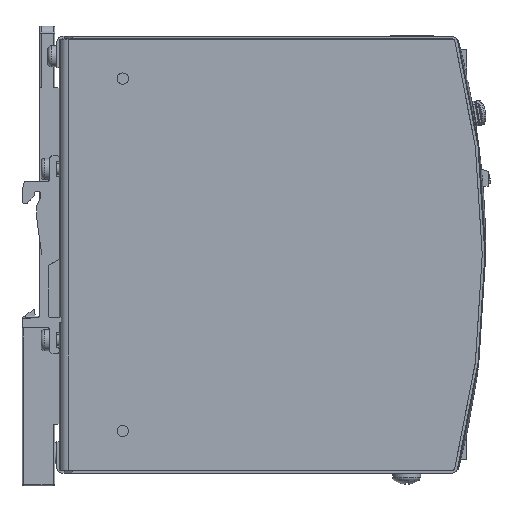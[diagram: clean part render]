
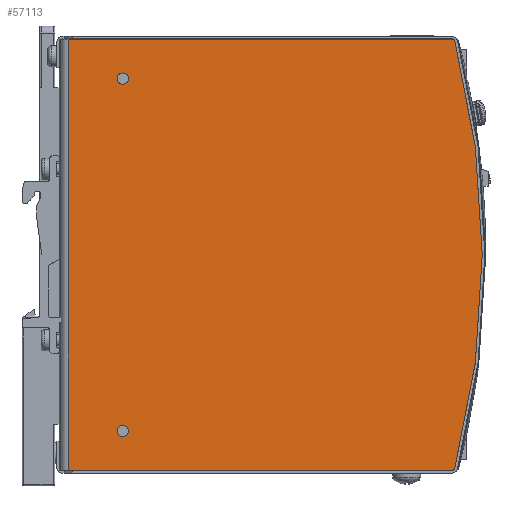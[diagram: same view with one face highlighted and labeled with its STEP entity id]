
A CAD part, front view. The second image highlights one B-rep face of the part: STEP entity #57113.
In plain terms, the highlighted planar face has unit normal (0, -1, 0).
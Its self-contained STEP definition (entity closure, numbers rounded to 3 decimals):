
#2478=FACE_BOUND('',#8600,.T.);
#2479=FACE_BOUND('',#8601,.T.);
#3162=PLANE('',#60580);
#5496=FACE_OUTER_BOUND('',#8599,.T.);
#8599=EDGE_LOOP('',(#39660,#39661,#39662,#39663,#39664,#39665));
#8600=EDGE_LOOP('',(#39666));
#8601=EDGE_LOOP('',(#39667));
#12389=LINE('',#77460,#18318);
#12390=LINE('',#77462,#18319);
#12391=LINE('',#77463,#18320);
#18318=VECTOR('',#64260,10.);
#18319=VECTOR('',#64261,10.);
#18320=VECTOR('',#64262,10.);
#24235=CIRCLE('',#60566,0.5);
#24238=CIRCLE('',#60570,240.);
#24242=CIRCLE('',#60576,0.5);
#24244=CIRCLE('',#60581,1.6);
#24245=CIRCLE('',#60582,1.6);
#25311=VERTEX_POINT('',#77418);
#25312=VERTEX_POINT('',#77419);
#25316=VERTEX_POINT('',#77429);
#25322=VERTEX_POINT('',#77445);
#25326=VERTEX_POINT('',#77459);
#25327=VERTEX_POINT('',#77461);
#25328=VERTEX_POINT('',#77464);
#25329=VERTEX_POINT('',#77466);
#31033=EDGE_CURVE('',#25311,#25312,#24235,.T.);
#31039=EDGE_CURVE('',#25311,#25316,#24238,.T.);
#31046=EDGE_CURVE('',#25322,#25316,#24242,.T.);
#31053=EDGE_CURVE('',#25322,#25326,#12389,.T.);
#31054=EDGE_CURVE('',#25326,#25327,#12390,.T.);
#31055=EDGE_CURVE('',#25312,#25327,#12391,.T.);
#31056=EDGE_CURVE('',#25328,#25328,#24244,.T.);
#31057=EDGE_CURVE('',#25329,#25329,#24245,.T.);
#39660=ORIENTED_EDGE('',*,*,#31033,.F.);
#39661=ORIENTED_EDGE('',*,*,#31039,.T.);
#39662=ORIENTED_EDGE('',*,*,#31046,.F.);
#39663=ORIENTED_EDGE('',*,*,#31053,.T.);
#39664=ORIENTED_EDGE('',*,*,#31054,.T.);
#39665=ORIENTED_EDGE('',*,*,#31055,.F.);
#39666=ORIENTED_EDGE('',*,*,#31056,.T.);
#39667=ORIENTED_EDGE('',*,*,#31057,.T.);
#57113=ADVANCED_FACE('',(#5496,#2478,#2479),#3162,.T.);
#60566=AXIS2_PLACEMENT_3D('',#77420,#64219,#64220);
#60570=AXIS2_PLACEMENT_3D('',#77431,#64230,#64231);
#60576=AXIS2_PLACEMENT_3D('',#77446,#64245,#64246);
#60580=AXIS2_PLACEMENT_3D('',#77458,#64258,#64259);
#60581=AXIS2_PLACEMENT_3D('',#77465,#64263,#64264);
#60582=AXIS2_PLACEMENT_3D('',#77467,#64265,#64266);
#64219=DIRECTION('center_axis',(0.,1.,0.));
#64220=DIRECTION('ref_axis',(0.611,0.,-0.792));
#64230=DIRECTION('center_axis',(0.,-1.,0.));
#64231=DIRECTION('ref_axis',(0.967,0.,0.255));
#64245=DIRECTION('center_axis',(0.,1.,0.));
#64246=DIRECTION('ref_axis',(0.611,0.,0.792));
#64258=DIRECTION('center_axis',(0.,-1.,0.));
#64259=DIRECTION('ref_axis',(0.,0.,-1.));
#64260=DIRECTION('',(-1.,0.,0.));
#64261=DIRECTION('',(0.,0.,-1.));
#64262=DIRECTION('',(-1.,0.,0.));
#64263=DIRECTION('center_axis',(0.,1.,0.));
#64264=DIRECTION('ref_axis',(-1.,0.,0.));
#64265=DIRECTION('center_axis',(0.,1.,0.));
#64266=DIRECTION('ref_axis',(-1.,0.,0.));
#77418=CARTESIAN_POINT('',(112.177,-24.,-60.777));
#77419=CARTESIAN_POINT('',(111.693,-24.,-61.15));
#77420=CARTESIAN_POINT('Origin',(111.693,-24.,-60.65));
#77429=CARTESIAN_POINT('',(112.177,-24.,60.777));
#77431=CARTESIAN_POINT('Origin',(-120.,-24.,0.));
#77445=CARTESIAN_POINT('',(111.693,-24.,61.15));
#77446=CARTESIAN_POINT('Origin',(111.693,-24.,60.65));
#77458=CARTESIAN_POINT('Origin',(130.,-24.,-61.15));
#77459=CARTESIAN_POINT('',(2.5,-24.,61.15));
#77460=CARTESIAN_POINT('',(130.,-24.,61.15));
#77461=CARTESIAN_POINT('',(2.5,-24.,-61.15));
#77462=CARTESIAN_POINT('',(2.5,-24.,-61.15));
#77463=CARTESIAN_POINT('',(130.,-24.,-61.15));
#77464=CARTESIAN_POINT('',(19.6,-24.,-50.));
#77465=CARTESIAN_POINT('Origin',(18.,-24.,-50.));
#77466=CARTESIAN_POINT('',(19.6,-24.,50.));
#77467=CARTESIAN_POINT('Origin',(18.,-24.,50.));
